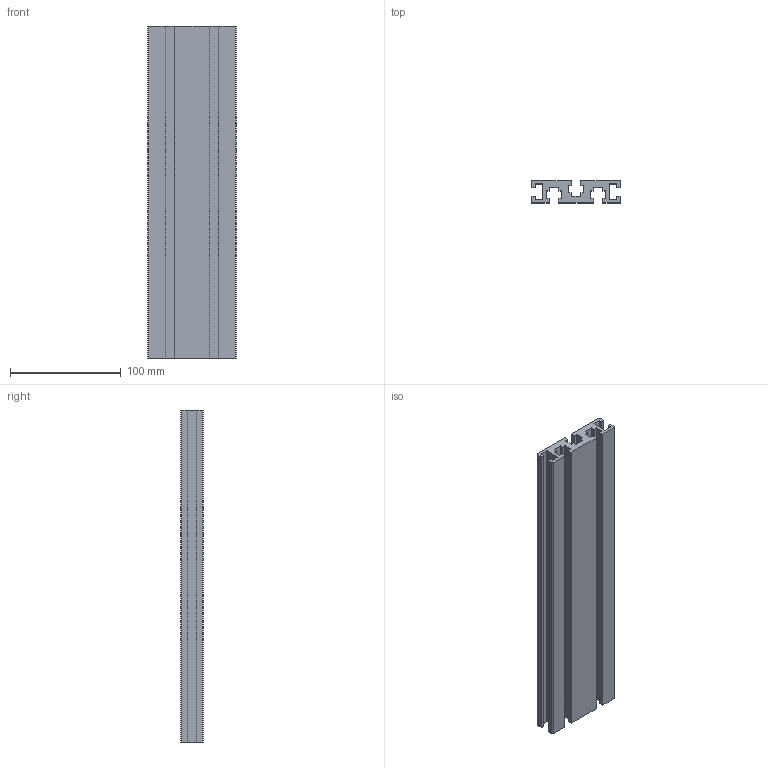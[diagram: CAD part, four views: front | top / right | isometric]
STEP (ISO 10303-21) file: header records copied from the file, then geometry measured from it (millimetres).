
FILE_DESCRIPTION (( 'STEP AP203' ), '1' );
FILE_NAME ('10-CG-2080-8.STEP', '2015-07-07T02:51:06', ( '' ), ( '' ), 'SwSTEP 2.0', 'SolidWorks 2013', '' );
FILE_SCHEMA (( 'CONFIG_CONTROL_DESIGN' ));
Length unit declared in the file: millimetre
Products named in the file (1): 10-CG-2080-8
Bounding box: 80 x 20 x 300 mm (x, y, z)
Volume: 263475.2 mm3; surface area: 115445.4 mm2
Topology: 1 solids, 1 shells, 114 faces, 336 edges, 224 vertices
Faces by surface type: plane 58, cylinder 56
Entity records: 3909 total; most frequent: DIRECTION 678, CARTESIAN_POINT 675, ORIENTED_EDGE 672, EDGE_CURVE 336, AXIS2_PLACEMENT_3D 227, VECTOR 224, LINE 224, VERTEX_POINT 224
